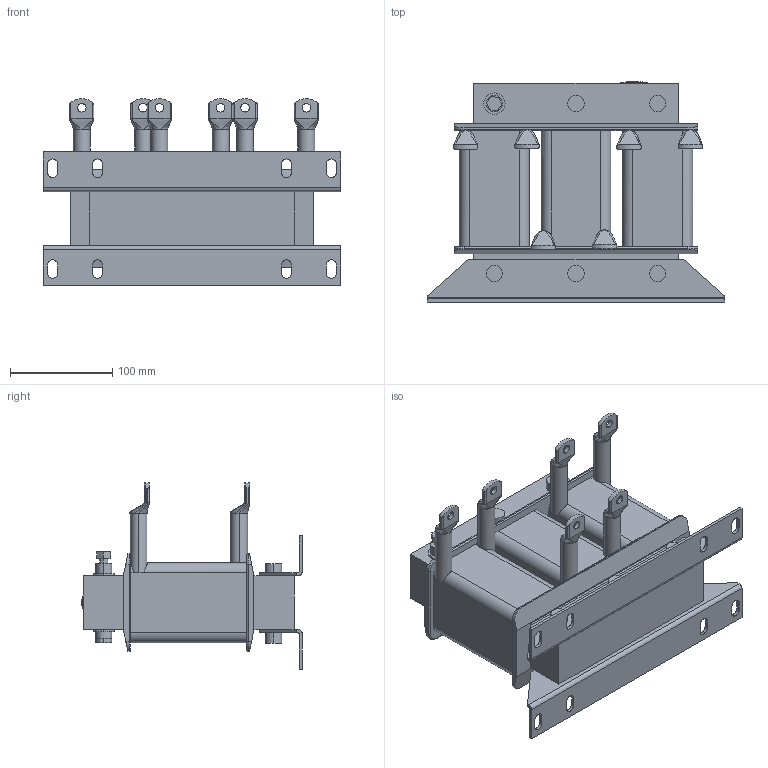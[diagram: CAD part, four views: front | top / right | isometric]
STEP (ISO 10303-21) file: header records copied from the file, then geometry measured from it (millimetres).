
FILE_DESCRIPTION (( 'STEP AP214' ), '1' );
FILE_NAME ('00Z1FX4-0023.STEP', '2022-08-15T12:33:33', ( '' ), ( '' ), 'SwSTEP 2.0', 'SolidWorks 2022', '' );
FILE_SCHEMA (( 'AUTOMOTIVE_DESIGN' ));
Length unit declared in the file: centimetre
Products named in the file (1): 00Z1FX4-0023
Bounding box: 291 x 215.82 x 182.95 mm (x, y, z)
Volume: 3144352.5 mm3; surface area: 289022.5 mm2
Topology: 1 solids, 1 shells, 384 faces, 1011 edges, 651 vertices
Faces by surface type: plane 163, cylinder 152, bspline 61, torus 8
Entity records: 16117 total; most frequent: CARTESIAN_POINT 6848, ORIENTED_EDGE 2022, DIRECTION 1622, EDGE_CURVE 1011, VERTEX_POINT 651, AXIS2_PLACEMENT_3D 567, VECTOR 488, LINE 488
